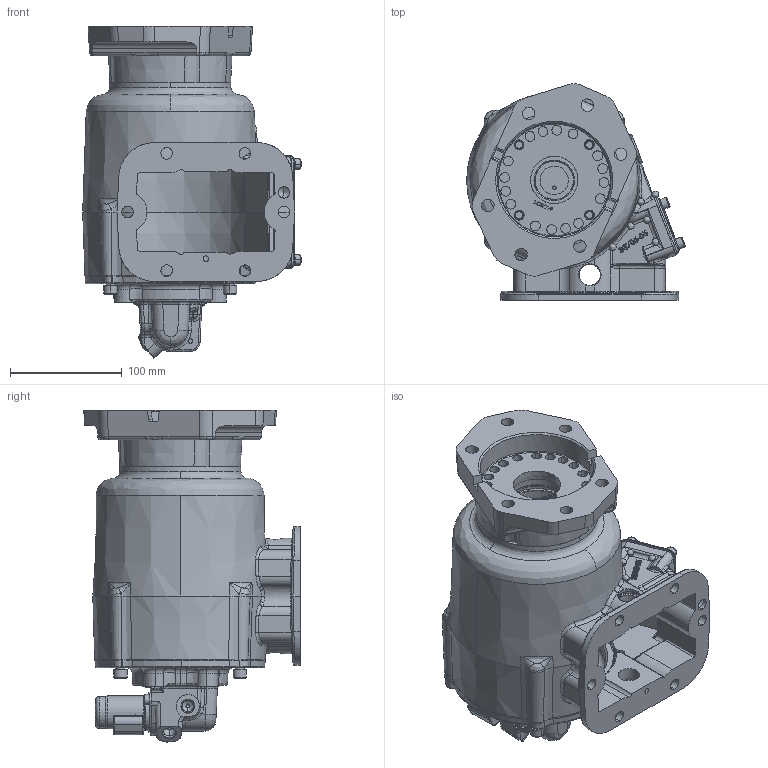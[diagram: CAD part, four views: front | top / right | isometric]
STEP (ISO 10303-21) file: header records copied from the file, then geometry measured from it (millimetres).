
FILE_DESCRIPTION (( 'STEP AP203' ), '1' );
FILE_NAME ('CS6S-XXXXX-S3KX.STEP', '2023-04-11T18:43:33', ( '' ), ( '' ), 'SwSTEP 2.0', 'SolidWorks 2021', '' );
FILE_SCHEMA (( 'CONFIG_CONTROL_DESIGN' ));
Length unit declared in the file: inch
Products named in the file (9): 14T37779; CS6S-XXXXX-S3KX; 19T40859; 16T41119; 19T41118; 19T35237; 01T37072; 35T40860-2; 15T41597
Assembly tree (15 placements, depth 2):
  CS6S-XXXXX-S3KX
    01T37072
    16T41119
    14T37779
    19T35237  x4
    19T41118  x4
    15T41597
    35T40860-2
    19T40859  x2
Bounding box: 195.33 x 193.34 x 296.64 mm (x, y, z)
Volume: 1456006.5 mm3; surface area: 420078.4 mm2
Topology: 16 solids, 16 shells, 2257 faces, 5816 edges, 3599 vertices
Faces by surface type: bspline 800, cylinder 573, plane 562, cone 226, torus 92, sphere 4
Entity records: 147587 total; most frequent: CARTESIAN_POINT 101627, ORIENTED_EDGE 10714, DIRECTION 6982, EDGE_CURVE 5357, VERTEX_POINT 3384, AXIS2_PLACEMENT_3D 2495, EDGE_LOOP 2347, ADVANCED_FACE 2104
